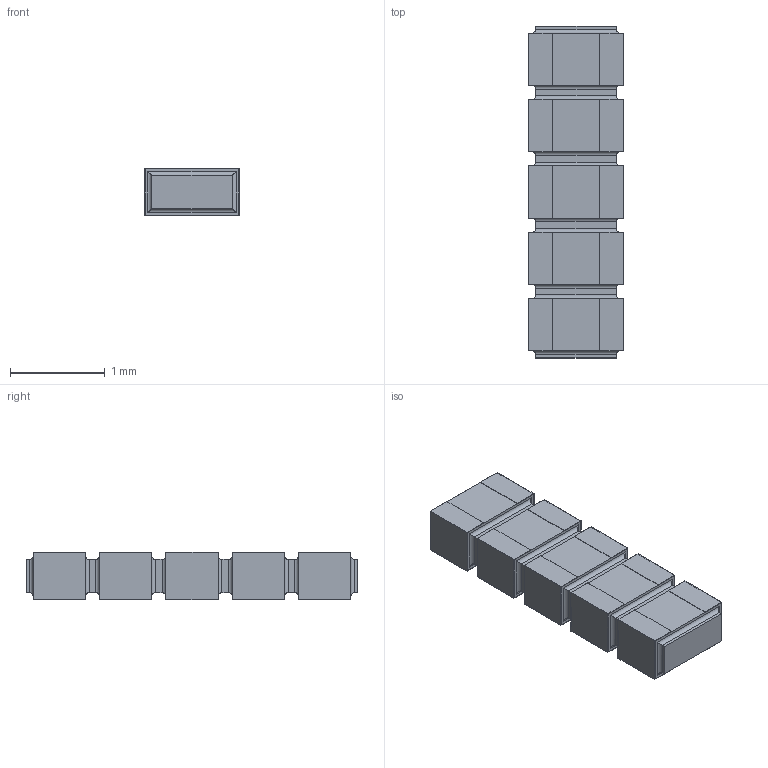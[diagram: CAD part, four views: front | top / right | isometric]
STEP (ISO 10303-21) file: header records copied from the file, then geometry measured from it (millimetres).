
FILE_DESCRIPTION(/* description */ (''),/* implementation_level */ '2;1');
FILE_NAME(/* name */ 'S:\DOCUMENT\AUTOCAD\3D_Modèles\10_3D-pour-VISHAY-COM\PRA\PRA074\PRA074-I2_à_I8\10_IGES\PRA074I5_B-or-N-or-G.stp',/* time_stamp */ '2017-12-19T14:55:07+01:00',/* author */ ('dparmentier'),/* organization */ ('unknown'),/* preprocessor_version */ 'ST-DEVELOPER v17',/* originating_system */ 'Autodesk Inventor 2018',/* authorisation */ '');
FILE_SCHEMA (('AUTOMOTIVE_DESIGN { 1 0 10303 214 3 1 1 }'));
Length unit declared in the file: millimetre
Products named in the file (1): PRA074I5_B-or-N-or-G
Bounding box: 1 x 3.5 x 0.5 mm (x, y, z)
Volume: 1.6 mm3; surface area: 23.1 mm2
Topology: 11 solids, 11 shells, 196 faces, 452 edges, 288 vertices
Faces by surface type: plane 156, cylinder 40
Entity records: 5459 total; most frequent: CARTESIAN_POINT 937, ORIENTED_EDGE 904, DIRECTION 886, EDGE_CURVE 452, LINE 412, VECTOR 412, VERTEX_POINT 288, AXIS2_PLACEMENT_3D 237
